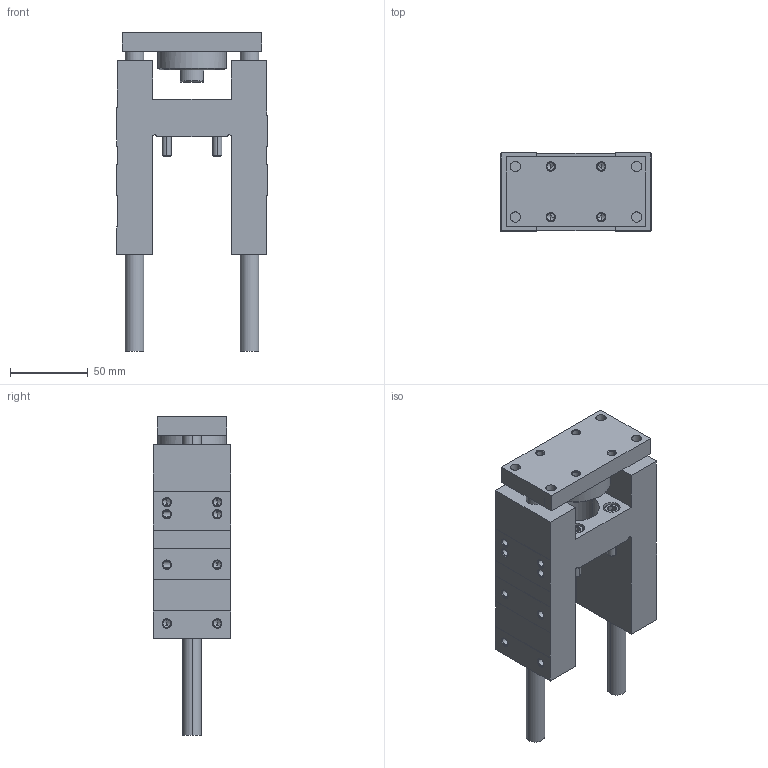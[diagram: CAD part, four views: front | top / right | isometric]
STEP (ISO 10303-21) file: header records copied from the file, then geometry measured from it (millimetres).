
FILE_DESCRIPTION (( 'STEP AP203' ), '1' );
FILE_NAME ('GB32-50.STEP', '2020-04-24T11:07:32', ( '' ), ( '' ), 'SwSTEP 2.0', 'SolidWorks 2019', '' );
FILE_SCHEMA (( 'CONFIG_CONTROL_DESIGN' ));
Length unit declared in the file: millimetre
Products named in the file (1): GB32-50
Bounding box: 97 x 50 x 205 mm (x, y, z)
Volume: 405246 mm3; surface area: 96126.3 mm2
Topology: 6 solids, 6 shells, 377 faces, 862 edges, 494 vertices
Faces by surface type: cone 154, plane 117, cylinder 106
Entity records: 11155 total; most frequent: CARTESIAN_POINT 2540, DIRECTION 1916, ORIENTED_EDGE 1660, EDGE_CURVE 830, AXIS2_PLACEMENT_3D 756, VERTEX_POINT 494, EDGE_LOOP 444, VECTOR 404
